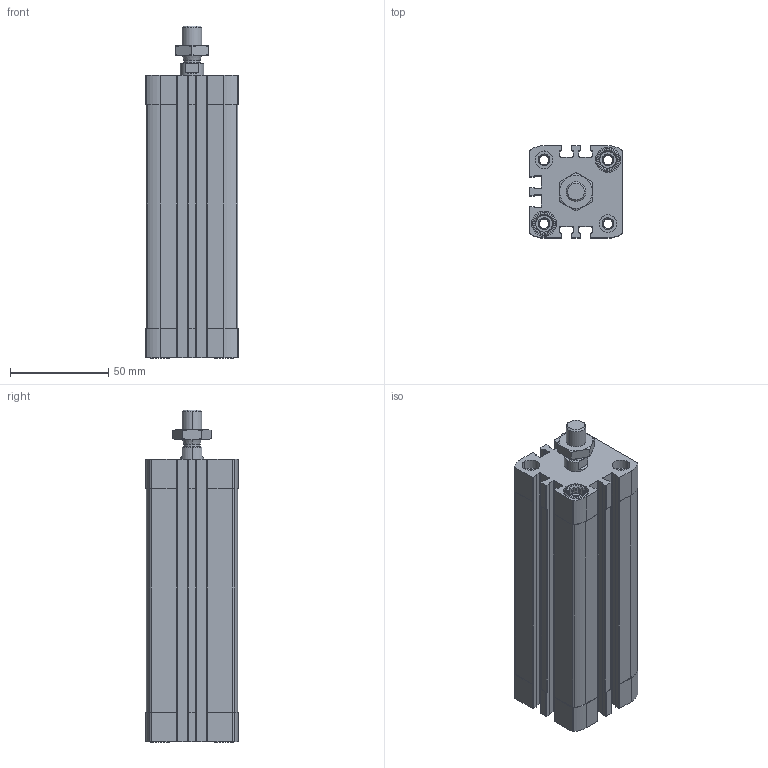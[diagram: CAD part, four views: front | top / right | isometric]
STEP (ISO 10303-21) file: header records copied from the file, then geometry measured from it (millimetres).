
FILE_DESCRIPTION (( 'STEP AP203' ), '1' );
FILE_NAME ('CCN32-100M.STEP', '2017-03-29T13:23:07', ( '' ), ( '' ), 'SwSTEP 2.0', 'SolidWorks 2016', '' );
FILE_SCHEMA (( 'CONFIG_CONTROL_DESIGN' ));
Length unit declared in the file: millimetre
Products named in the file (4): _DIN-439-B - M10x1.25(F); CCN32-100M; CCN-100---(Z); CCN-100_(KS)
Assembly tree (3 placements, depth 2):
  CCN32-100M
    CCN-100---(Z)
    CCN-100_(KS)
    _DIN-439-B - M10x1.25(F)
Bounding box: 47 x 47 x 169 mm (x, y, z)
Volume: 194478.1 mm3; surface area: 76157 mm2
Topology: 3 solids, 3 shells, 499 faces, 1334 edges, 872 vertices
Faces by surface type: plane 275, cylinder 172, cone 48, bspline 4
Entity records: 16246 total; most frequent: CARTESIAN_POINT 3119, DIRECTION 2720, ORIENTED_EDGE 2668, EDGE_CURVE 1334, AXIS2_PLACEMENT_3D 997, VERTEX_POINT 872, LINE 726, VECTOR 726
